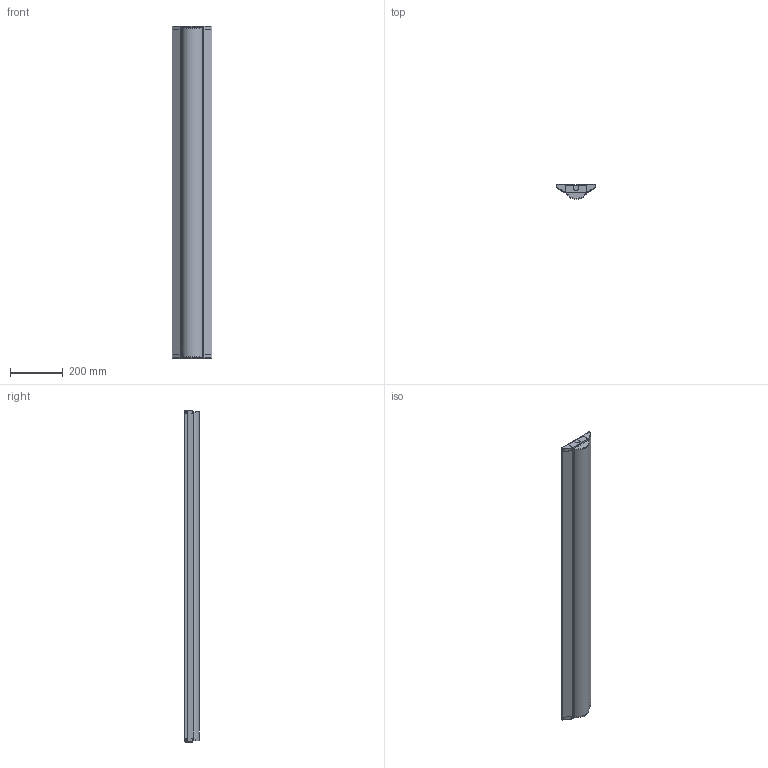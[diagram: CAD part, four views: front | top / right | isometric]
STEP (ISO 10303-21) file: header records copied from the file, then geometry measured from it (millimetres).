
FILE_DESCRIPTION (( 'STEP AP214' ), '1' );
FILE_NAME ('150_2.STEP', '2025-04-20T05:59:15', ( '' ), ( '' ), 'SwSTEP 2.0', 'SolidWorks 2014', '' );
FILE_SCHEMA (( 'AUTOMOTIVE_DESIGN' ));
Length unit declared in the file: millimetre
Products named in the file (11): 150_ベース; サイドプレート; 電源ケース; 150_2; ライトベース; 150_組; Base_組; 引掛け金具; 拡散カバー組; 150_サイドカバー; PC拡散
Assembly tree (13 placements, depth 4):
  150_2
    150_組
      150_ベース
      150_サイドカバー  x2
      引掛け金具  x2
    Base_組
      ライトベース
      電源ケース
      拡散カバー組
        サイドプレート  x2
        PC拡散
Bounding box: 150 x 55 x 1260.5 mm (x, y, z)
Volume: 318682.8 mm3; surface area: 1263249.1 mm2
Topology: 10 solids, 10 shells, 687 faces, 1982 edges, 1307 vertices
Faces by surface type: plane 497, cylinder 186, bspline 4
Entity records: 22585 total; most frequent: CARTESIAN_POINT 3013, ORIENTED_EDGE 2904, DIRECTION 2768, EDGE_CURVE 1452, VECTOR 1146, LINE 1146, VERTEX_POINT 959, AXIS2_PLACEMENT_3D 811
